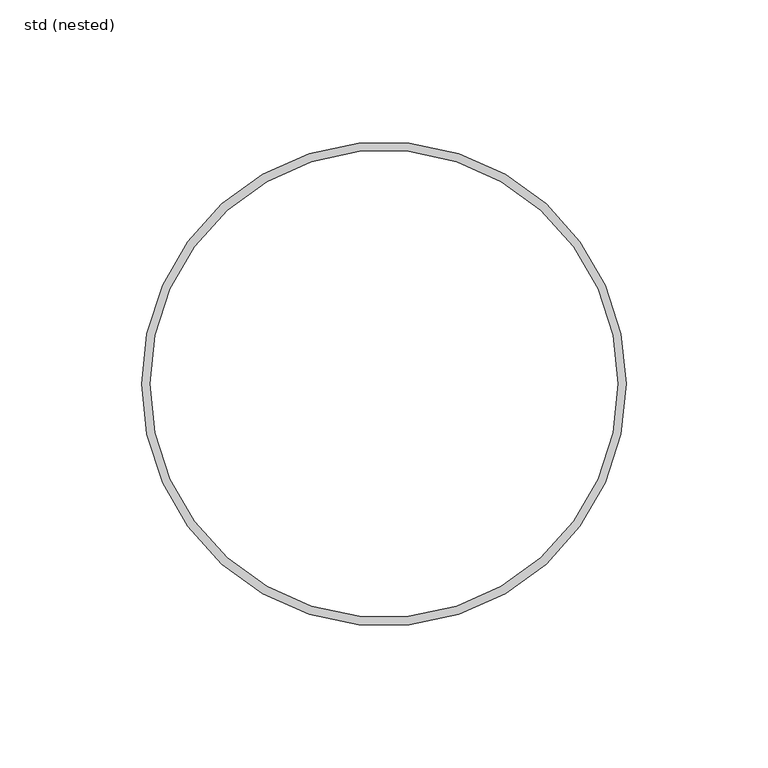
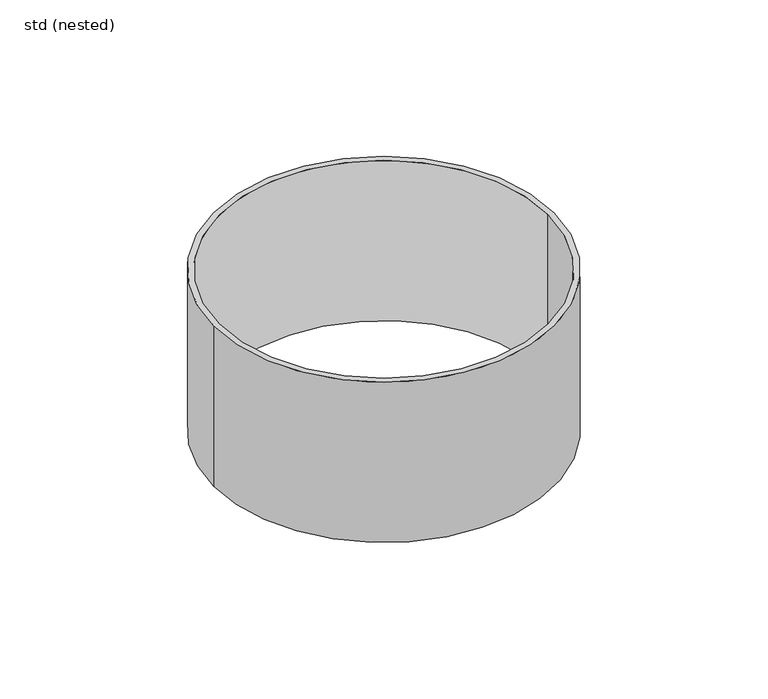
"""IFC4 building model written with IfcOpenShell, lengths in millimetres: pipe fitting geometry, ZZZ_do not use_PIF_ST_WPB_GM-X compound pipe clamp_ACO : std (nested)."""

from ifc_helpers import new_model, si_unit, point, frame, origin, origin_2d, place, context, project, spatial, circle_curve, trimmed, segment, composite_curve, outline, extrude, source, transform, mapped, element, save


def std_nested_8d21ddc5(model_context):
    return source(origin(), model_context, "Body", "SweptSolid", [
        extrude(outline(composite_curve([segment(trimmed(circle_curve(origin_2d(), 85.5), [point((85.5, 0.0))], [point((-85.5, 0.0))], False, "CARTESIAN"), True, "CONTINUOUS"), segment(trimmed(circle_curve(origin_2d(), 85.5), [point((-85.5, 0.0))], [point((85.5, 0.0))], False, "CARTESIAN"), True, "CONTINUOUS")], self_intersect=False), holes=[composite_curve([segment(trimmed(circle_curve(origin_2d(), 82.5), [point((82.5, 0.0))], [point((-82.5, 0.0))], True, "CARTESIAN"), True, "CONTINUOUS"), segment(trimmed(circle_curve(origin_2d(), 82.5), [point((-82.5, 0.0))], [point((82.5, 0.0))], True, "CARTESIAN"), True, "CONTINUOUS")], self_intersect=False)]), frame((0.0, 0.0, -96.25), z_axis=(0.0, 0.0, 1.0), x_axis=(1.0, 0.0, 0.0)), (0.0, 0.0, 1.0), 85.0),
    ])


if __name__ == "__main__":
    model = new_model("IFC4")
    model_context = context("Model", 3, world=origin())
    ifc_project = project(units=[si_unit("LENGTHUNIT", "METRE", prefix="MILLI")], contexts=[model_context])
    site = spatial("IfcSite", under=ifc_project)
    building = spatial("IfcBuilding", under=site)
    placement = place(None, origin())
    std_nested_shape = std_nested_8d21ddc5(model_context)
    element("IfcPipeFitting", 1, ObjectType="ZZZ_do not use_PIF_ST_WPB_GM-X compound pipe clamp_ACO : std (nested)", at=placement, inside=building, context=model_context, shape_type="MappedRepresentation", body=[
        mapped(std_nested_shape, transform((0.0, 0.0, 0.0), x_axis=(1.0, 0.0, 0.0), y_axis=(0.0, 1.0, 0.0), z_axis=(0.0, 0.0, 1.0))),
    ])
    save(model, "model.ifc")
